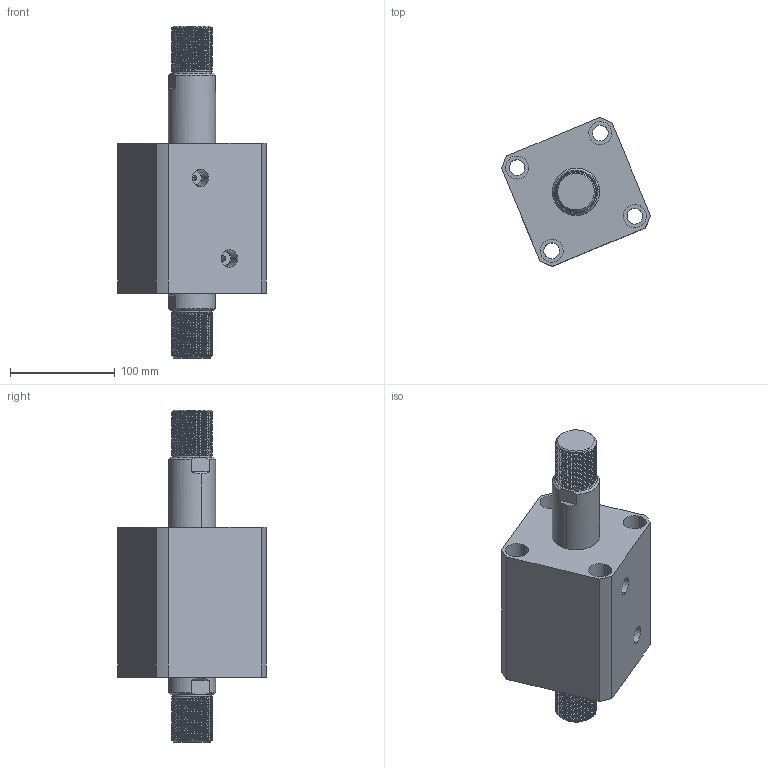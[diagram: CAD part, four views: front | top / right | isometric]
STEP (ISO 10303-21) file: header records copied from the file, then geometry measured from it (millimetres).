
FILE_DESCRIPTION (( 'STEP AP214' ), '1' );
FILE_NAME ('chtb-sw80x50w_asm.STEP', '2018-05-28T01:50:22', ( 'Windows' ), ( 'Microsoft' ), 'SwSTEP 2.0', 'SolidWorks 2015', '' );
FILE_SCHEMA (( 'AUTOMOTIVE_DESIGN' ));
Length unit declared in the file: millimetre
Products named in the file (4): CHTB-SW80X50NBT; CHTB-SD80QG; chtb-sw80x50w_asm; CHTB-SW80X50WHSG
Assembly tree (3 placements, depth 2):
  chtb-sw80x50w_asm
    CHTB-SD80QG
    CHTB-SW80X50NBT
    CHTB-SW80X50WHSG
Bounding box: 142.06 x 142.06 x 317 mm (x, y, z)
Volume: 1751605 mm3; surface area: 239903.1 mm2
Topology: 3 solids, 3 shells, 330 faces, 908 edges, 607 vertices
Faces by surface type: cylinder 221, plane 48, cone 25, bspline 18, torus 18
Entity records: 25864 total; most frequent: CARTESIAN_POINT 18238, ORIENTED_EDGE 1808, DIRECTION 1338, EDGE_CURVE 904, VERTEX_POINT 607, AXIS2_PLACEMENT_3D 532, EDGE_LOOP 373, ADVANCED_FACE 330
